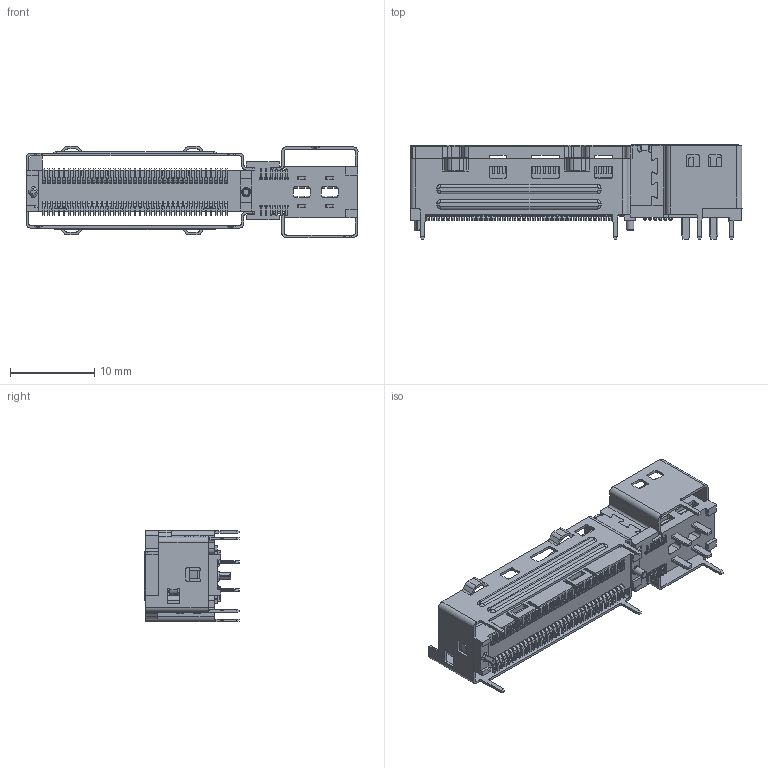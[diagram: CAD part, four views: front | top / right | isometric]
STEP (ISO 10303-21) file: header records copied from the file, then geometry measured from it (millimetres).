
FILE_DESCRIPTION((''),'2;1');
FILE_NAME('MTK_8X_POWER_ASM_2024_SW0003','2026-04-13T21:04:55',('12824382'),(''),'CREO PARAMETRIC BY PTC INC, 2019471','CREO PARAMETRIC BY PTC INC, 2019471','');
FILE_SCHEMA(('CONFIG_CONTROL_DESIGN'));
Products named in the file (1): MTK_8X_POWER_ASM_2024_SW0003
Bounding box: 39.3 x 11.15 x 10.8 mm (x, y, z)
Volume: 1211 mm3; surface area: 4216.6 mm2
Topology: 1 solids, 1 shells, 6551 faces, 18832 edges, 12398 vertices
Faces by surface type: plane 4289, cylinder 2079, torus 66, sphere 56, cone 39, bspline 20, extrusion 2
Entity records: 215660 total; most frequent: CARTESIAN_POINT 41030, ORIENTED_EDGE 37544, DIRECTION 35314, EDGE_CURVE 18772, VECTOR 14102, LINE 14100, VERTEX_POINT 12398, AXIS2_PLACEMENT_3D 10606
